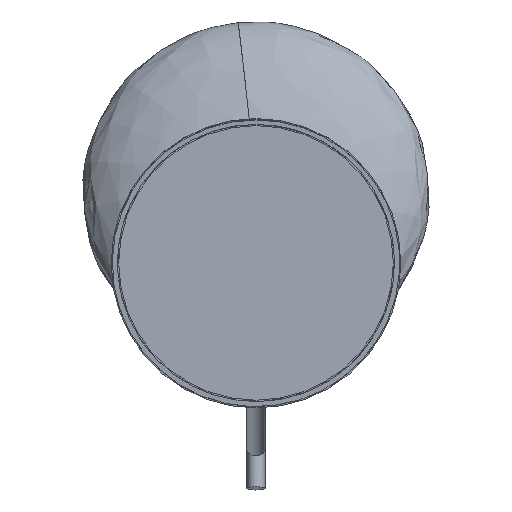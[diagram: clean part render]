
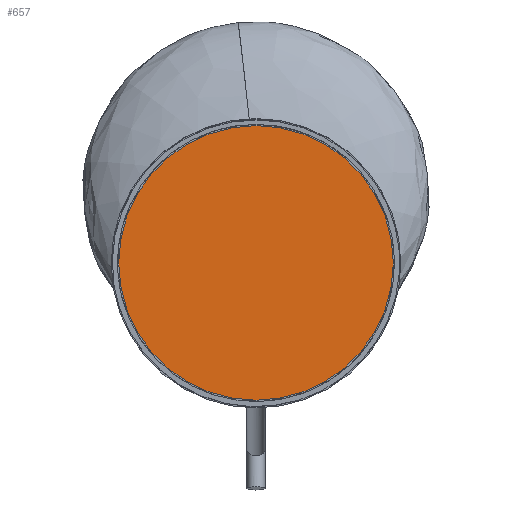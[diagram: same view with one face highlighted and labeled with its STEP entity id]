
A CAD part, front view. The second image highlights one B-rep face of the part: STEP entity #657.
In plain terms, the highlighted planar face has unit normal (0, -1, 0).
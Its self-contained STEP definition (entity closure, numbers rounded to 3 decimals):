
#50=PLANE('',#772);
#99=CIRCLE('',#773,118.5);
#100=CIRCLE('',#774,118.5);
#138=FACE_OUTER_BOUND('',#177,.T.);
#177=EDGE_LOOP('',(#506,#507));
#297=VERTEX_POINT('',#1790);
#298=VERTEX_POINT('',#1791);
#382=EDGE_CURVE('',#297,#298,#99,.T.);
#383=EDGE_CURVE('',#298,#297,#100,.T.);
#506=ORIENTED_EDGE('',*,*,#382,.F.);
#507=ORIENTED_EDGE('',*,*,#383,.F.);
#657=ADVANCED_FACE('',(#138),#50,.F.);
#772=AXIS2_PLACEMENT_3D('',#1789,#913,#914);
#773=AXIS2_PLACEMENT_3D('',#1792,#915,#916);
#774=AXIS2_PLACEMENT_3D('',#1793,#917,#918);
#913=DIRECTION('center_axis',(0.,1.,0.));
#914=DIRECTION('ref_axis',(0.,0.,1.));
#915=DIRECTION('center_axis',(0.,1.,0.));
#916=DIRECTION('ref_axis',(1.,0.,0.));
#917=DIRECTION('center_axis',(0.,1.,0.));
#918=DIRECTION('ref_axis',(1.,0.,0.));
#1789=CARTESIAN_POINT('Origin',(0.,-0.2,123.24));
#1790=CARTESIAN_POINT('',(118.5,-0.2,0.));
#1791=CARTESIAN_POINT('',(-118.5,-0.2,0.));
#1792=CARTESIAN_POINT('Origin',(0.,-0.2,0.));
#1793=CARTESIAN_POINT('Origin',(0.,-0.2,0.));
